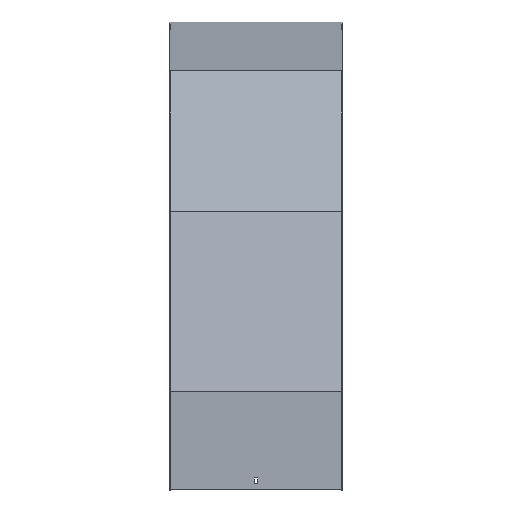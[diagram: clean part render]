
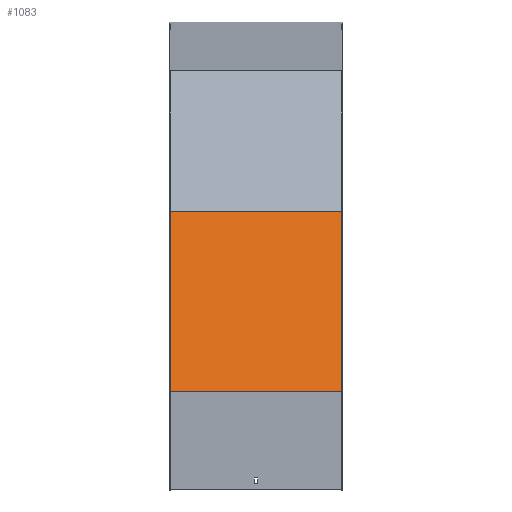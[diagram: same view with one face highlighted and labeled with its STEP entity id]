
A CAD part, top view. The second image highlights one B-rep face of the part: STEP entity #1083.
In plain terms, the highlighted planar face has unit normal (0, 0.259, 0.966).
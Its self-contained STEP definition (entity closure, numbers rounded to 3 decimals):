
#38 = FACE_OUTER_BOUND ( 'NONE', #315, .T. ) ;
#52 = EDGE_CURVE ( 'NONE', #982, #835, #103, .T. ) ;
#81 = VECTOR ( 'NONE', #717, 1000. ) ;
#103 = LINE ( 'NONE', #631, #81 ) ;
#120 = LINE ( 'NONE', #656, #897 ) ;
#257 = VERTEX_POINT ( 'NONE', #969 ) ;
#315 = EDGE_LOOP ( 'NONE', ( #634, #640, #610, #438 ) ) ;
#352 = LINE ( 'NONE', #624, #445 ) ;
#370 = DIRECTION ( 'NONE',  ( 0., -0.259, -0.966 ) ) ;
#376 = DIRECTION ( 'NONE',  ( -1., 0., 0. ) ) ;
#379 = DIRECTION ( 'NONE',  ( 0., -0.966, 0.259 ) ) ;
#410 = EDGE_CURVE ( 'NONE', #835, #586, #352, .T. ) ;
#438 = ORIENTED_EDGE ( 'NONE', *, *, #998, .T. ) ;
#445 = VECTOR ( 'NONE', #538, 1000. ) ;
#526 = AXIS2_PLACEMENT_3D ( 'NONE', #545, #370, #721 ) ;
#535 = EDGE_CURVE ( 'NONE', #257, #586, #658, .T. ) ;
#538 = DIRECTION ( 'NONE',  ( -1., 0., 0. ) ) ;
#545 = CARTESIAN_POINT ( 'NONE',  ( 151.5, -317.096, 737.158 ) ) ;
#586 = VERTEX_POINT ( 'NONE', #815 ) ;
#610 = ORIENTED_EDGE ( 'NONE', *, *, #52, .F. ) ;
#624 = CARTESIAN_POINT ( 'NONE',  ( 151.5, -627.77, 820.403 ) ) ;
#631 = CARTESIAN_POINT ( 'NONE',  ( 151.5, -317.096, 737.158 ) ) ;
#634 = ORIENTED_EDGE ( 'NONE', *, *, #535, .T. ) ;
#640 = ORIENTED_EDGE ( 'NONE', *, *, #410, .F. ) ;
#656 = CARTESIAN_POINT ( 'NONE',  ( 151.5, -311.92, 735.771 ) ) ;
#658 = LINE ( 'NONE', #991, #671 ) ;
#671 = VECTOR ( 'NONE', #379, 1000. ) ;
#717 = DIRECTION ( 'NONE',  ( 0., -0.966, 0.259 ) ) ;
#721 = DIRECTION ( 'NONE',  ( 0., 0.966, -0.259 ) ) ;
#815 = CARTESIAN_POINT ( 'NONE',  ( -151.5, -627.77, 820.403 ) ) ;
#835 = VERTEX_POINT ( 'NONE', #874 ) ;
#874 = CARTESIAN_POINT ( 'NONE',  ( 151.5, -627.77, 820.403 ) ) ;
#897 = VECTOR ( 'NONE', #376, 1000. ) ;
#965 = PLANE ( 'NONE',  #526 ) ;
#969 = CARTESIAN_POINT ( 'NONE',  ( -151.5, -311.92, 735.771 ) ) ;
#982 = VERTEX_POINT ( 'NONE', #1052 ) ;
#991 = CARTESIAN_POINT ( 'NONE',  ( -151.5, -317.096, 737.158 ) ) ;
#998 = EDGE_CURVE ( 'NONE', #982, #257, #120, .T. ) ;
#1052 = CARTESIAN_POINT ( 'NONE',  ( 151.5, -311.92, 735.771 ) ) ;
#1083 = ADVANCED_FACE ( 'NONE', ( #38 ), #965, .F. ) ;
